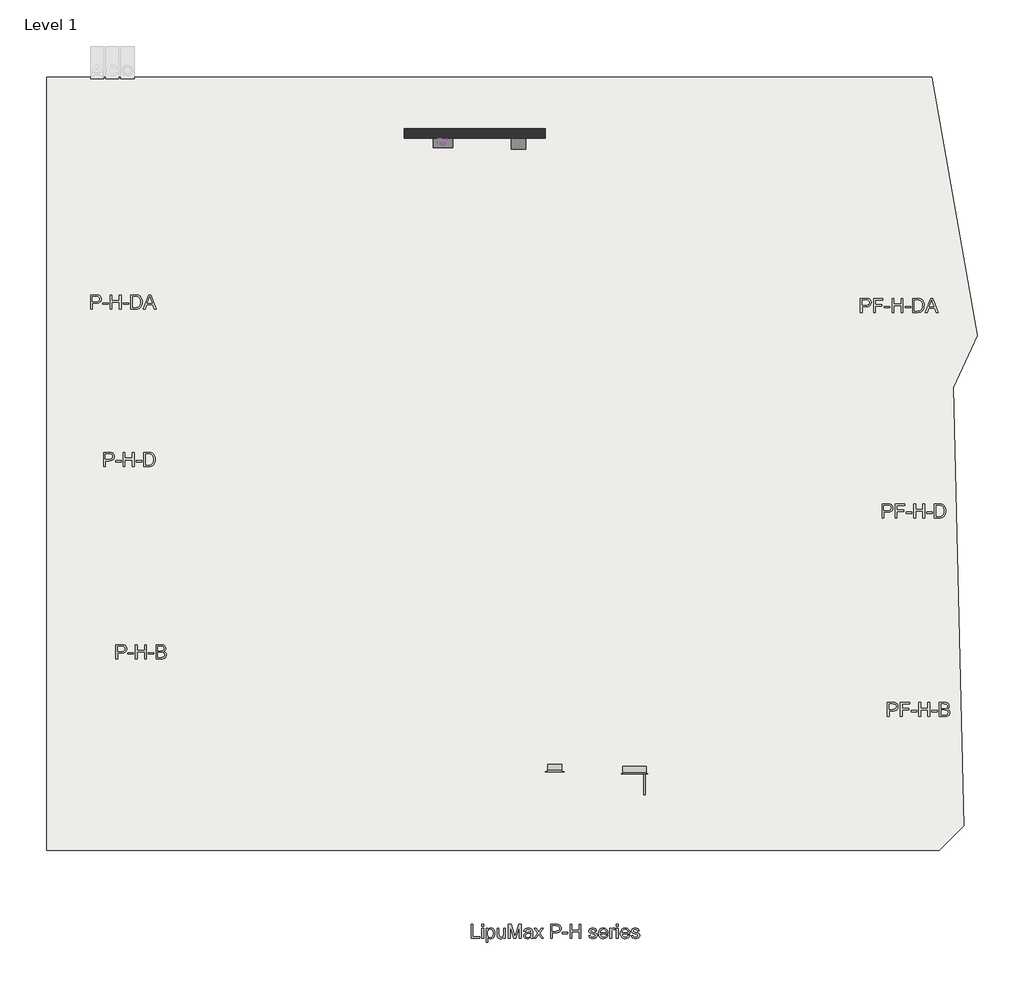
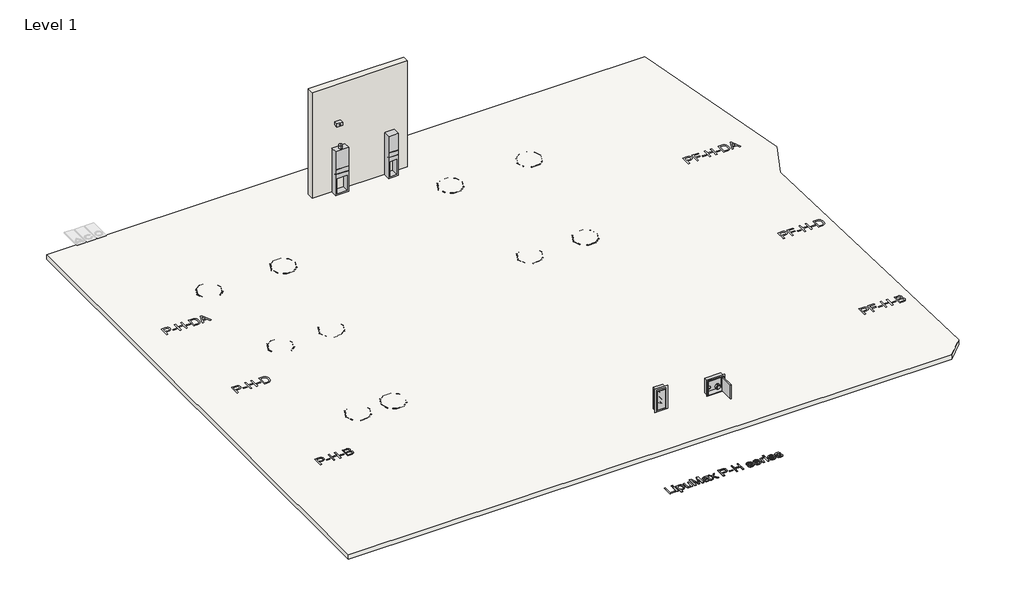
# One storey, part 1 of 2: 23 unitary equipment elements, 4 furniture elements, 4 proxies, 1 alarm, 1 slab, 1 wall.
"""IFC4 building model written with IfcOpenShell, lengths in millimetres."""

from ifc_helpers import new_model, si_unit, frame, origin, origin_with_axes, place, context, project, spatial, polyline, outline, extrude, transform, mapped, element, save
from components import std_nested_414b5e36, message_system_with_gsm_module_9e46706c, std_nested_7b1f1c58, furniture_300_x_725_x_160_cc6d1901, furniture_500x500x160_e2bdd59b, cabinet_for_multi_control_duo_19fc9964, open_air_cabinet_heating_thermostat_9f62fe86, ns_20_1f6e9076, std_nested_3f0f99d6, std_nested_1232a2d1, std_nested_ab5ed908, std_nested_dfdc8ccc, std_nested_f2bb9ae7, std_nested_6977cd49, std_nested_bba80288, std_nested_8366b505

model = new_model("IFC4")

# Units and contexts
model_context = context("Model", 3, world=origin())
ifc_project = project(units=[si_unit("LENGTHUNIT", "METRE", prefix="MILLI")], contexts=[model_context])

# Site, building, storey
site = spatial("IfcSite", under=ifc_project)
building = spatial("IfcBuilding", under=site)
storey = spatial("IfcBuildingStorey", under=building, Name="Level 1", Elevation=0.0)

# Alarm
placement = place(None, origin())
std_nested_shape = std_nested_414b5e36(model_context)
element("IfcAlarm", 1, ObjectType="ZZZ_do not use_CD_WPB_flashing light_ACO : std(nested)", at=placement, inside=storey, context=model_context, shape_type="MappedRepresentation", body=[
    mapped(std_nested_shape, transform((5030.9983347, 8722.4409453, 1415.0), x_axis=(1.0, 0.0, 0.0), y_axis=(0.0, 1.0, 0.0), z_axis=(0.0, 0.0, 1.0))),
])

# Proxies
element("IfcBuildingElementProxy", 2, Name="100mm ACO", ObjectType="100mm ACO", at=placement, inside=storey, context=model_context, shape_type="SweptSolid", body=[
    extrude(outline(polyline([(-1925.2265985, -1934.5372558), (-1812.8422957, -1934.5372558), (-1767.0400645, -1937.1780271), (-1748.5113736, -1941.929251), (-1731.3680054, -1950.90138), (-1716.9195227, -1963.96454), (-1706.4754884, -1980.988857), (-1700.1441308, -2000.4374888), (-1698.0336783, -2020.7735929), (-1699.6976889, -2040.3980956), (-1704.6897209, -2057.9716715), (-1713.0097741, -2073.4943204), (-1724.6578486, -2086.9660424), (-1739.9748637, -2097.8565185), (-1759.3017385, -2105.6354301), (-1782.6384732, -2110.302777), (-1809.9850677, -2111.8585593), (-1886.4375633, -2111.8585593), (-1886.4375633, -2233.7669555), (-1925.2265985, -2233.7669555), (-1925.2265985, -1934.5372558)]), holes=[polyline([(-1886.4375633, -2078.6108149), (-1808.4265797, -2078.6108149), (-1777.0998882, -2075.066337), (-1754.72368, -2064.4329031), (-1741.2979551, -2046.7105133), (-1736.8227134, -2021.8991675), (-1739.1496226, -2004.3770002), (-1746.1303502, -1989.0410451), (-1756.4986247, -1977.482259), (-1768.9881745, -1971.2915982), (-1809.2924063, -1967.7850002), (-1886.4375633, -1967.7850002), (-1886.4375633, -2078.6108149)])]), origin_with_axes(), (0.0, 0.0, 1.0), 10.0),
    extrude(outline(polyline([(-1553.9601191, -2134.0237223), (-1670.3272246, -2134.0237223), (-1670.3272246, -2106.3172686), (-1553.9601191, -2106.3172686), (-1553.9601191, -2134.0237223)])), origin_with_axes(), (0.0, 0.0, 1.0), 10.0),
    extrude(outline(polyline([(-1276.8955823, -2233.7669555), (-1315.6846174, -2233.7669555), (-1315.6846174, -2089.6933964), (-1470.8407581, -2089.6933964), (-1470.8407581, -2233.7669555), (-1509.6297932, -2233.7669555), (-1509.6297932, -1934.5372558), (-1470.8407581, -1934.5372558), (-1470.8407581, -2056.445652), (-1315.6846174, -2056.445652), (-1315.6846174, -1934.5372558), (-1276.8955823, -1934.5372558), (-1276.8955823, -2233.7669555)])), origin_with_axes(), (0.0, 0.0, 1.0), 10.0),
    extrude(outline(polyline([(-1116.1981509, -2134.0237223), (-1232.5652564, -2134.0237223), (-1232.5652564, -2106.3172686), (-1116.1981509, -2106.3172686), (-1116.1981509, -2134.0237223)])), origin_with_axes(), (0.0, 0.0, 1.0), 10.0),
    extrude(outline(polyline([(-907.966835, -2075.7535869), (-882.619759, -2086.9011054), (-864.5889184, -2103.3734579), (-853.8093763, -2123.9584872), (-850.2161956, -2147.4440358), (-853.3115259, -2171.3624978), (-862.597517, -2193.246267), (-877.5871414, -2211.3528674), (-897.7933715, -2223.9398228), (-924.666467, -2231.3101724), (-959.6566876, -2233.7669555), (-1071.867825, -2233.7669555), (-1071.867825, -1934.5372558), (-963.0334116, -1934.5372558), (-938.5711023, -1936.0308068), (-917.9996016, -1940.5114598), (-901.3189095, -1947.9792149), (-888.529026, -1958.4340721), (-872.2623073, -1983.6512741), (-866.8400678, -2011.5092474), (-869.3942565, -2030.514143), (-877.0568226, -2048.0471332), (-889.8927031, -2063.3722654), (-907.966835, -2075.7535869)]), holes=[polyline([(-1033.0787899, -2200.5192111), (-959.3103569, -2200.5192111), (-925.7920417, -2197.0234359), (-904.3736542, -2186.5361103), (-892.8473366, -2169.8797696), (-889.0052307, -2147.8769491), (-893.0962618, -2125.7659004), (-905.3693549, -2109.1312053), (-928.3137619, -2098.7088167), (-964.4187343, -2095.2346871), (-1033.0787899, -2095.2346871), (-1033.0787899, -2200.5192111)]), polyline([(-1033.0787899, -2061.9869427), (-970.8258517, -2061.9869427), (-938.6170993, -2059.6492107), (-926.3764747, -2055.3741915), (-915.629401, -2047.2245979), (-908.1291775, -2034.3562489), (-905.6291029, -2015.9249635), (-908.1508231, -1996.5845601), (-915.7159837, -1983.066841), (-926.7769195, -1974.5276254), (-939.7859654, -1970.1227322), (-975.6744811, -1967.7850002), (-1033.0787899, -1967.7850002), (-1033.0787899, -2061.9869427)])]), origin_with_axes(), (0.0, 0.0, 1.0), 10.0),
])
element("IfcBuildingElementProxy", 3, Name="100mm ACO", ObjectType="100mm ACO", at=placement, inside=storey, context=model_context, shape_type="SweptSolid", body=[
    extrude(outline(polyline([(5812.0372031, -8180.9782703), (5623.6333181, -8180.9782703), (5623.6333181, -7881.7485706), (5662.4223532, -7881.7485706), (5662.4223532, -8147.7305259), (5812.0372031, -8147.7305259), (5812.0372031, -8180.9782703)])), origin_with_axes(), (0.0, 0.0, 1.0), 10.0),
    extrude(outline(polyline([(5889.6152734, -7920.5376057), (5850.8262383, -7920.5376057), (5850.8262383, -7881.7485706), (5889.6152734, -7881.7485706), (5889.6152734, -7920.5376057)])), origin_with_axes(), (0.0, 0.0, 1.0), 10.0),
    extrude(outline(polyline([(5889.6152734, -8180.9782703), (5850.8262383, -8180.9782703), (5850.8262383, -7964.8679316), (5889.6152734, -7964.8679316), (5889.6152734, -8180.9782703)])), origin_with_axes(), (0.0, 0.0, 1.0), 10.0),
    extrude(outline(polyline([(5984.206838, -7990.9293146), (5995.803504, -7977.1031448), (6009.5106226, -7967.2273093), (6025.7178157, -7961.301808), (6044.4250834, -7959.3266409), (6063.949475, -7961.2639281), (6081.3092999, -7967.0757896), (6096.5045581, -7976.7622256), (6109.5352496, -7990.3232359), (6119.9901067, -8006.9958109), (6127.4578618, -8026.0169407), (6131.9385148, -8047.3866254), (6133.4320659, -8071.1048649), (6131.7437038, -8096.23819), (6126.6786178, -8118.6495724), (6118.2368077, -8138.3390122), (6106.4182735, -8155.3065093), (6092.1429562, -8168.9622195), (6076.3307965, -8178.7162981), (6058.9817944, -8184.5687453), (6040.09595, -8186.5195611), (6023.721003, -8184.9286046), (6009.0560636, -8180.155735), (5996.101132, -8172.2009524), (5984.856208, -8161.0642568), (5983.817216, -8264.0976314), (5945.0281808, -8264.0976314), (5945.0281808, -7964.8679316), (5983.817216, -7964.8679316), (5984.206838, -7990.9293146)]), holes=[polyline([(6035.8533993, -8158.8131074), (6059.1116684, -8153.3475765), (6077.9758672, -8136.9509838), (6090.4762398, -8109.7315576), (6094.6430307, -8071.7975263), (6090.6277595, -8035.6600853), (6078.5819458, -8008.9818008), (6060.2805344, -7992.5202711), (6037.49847, -7987.0330946), (6025.130677, -7988.5618198), (6013.9155159, -7993.1479955), (5994.9430888, -8011.4926982), (5982.4427161, -8039.577951), (5978.2759252, -8074.9145023), (5982.2695508, -8111.1601716), (5994.2504274, -8137.4704798), (6012.6384215, -8153.4774505), (6035.8533993, -8158.8131074)])]), origin_with_axes(), (0.0, 0.0, 1.0), 10.0),
    extrude(outline(polyline([(6355.0836953, -8180.9782703), (6321.8359509, -8180.9782703), (6321.8359509, -8149.5487619), (6307.1385431, -8165.7234866), (6291.1856865, -8177.2768613), (6272.9383893, -8184.2088861), (6252.3966514, -8186.5195611), (6230.4046538, -8183.8896125), (6210.1443095, -8175.9997669), (6193.9749963, -8163.4993943), (6184.2560918, -8147.0378646), (6179.3858168, -8125.8467566), (6177.7623918, -8099.1576493), (6177.7623918, -7964.8679316), (6216.5514269, -7964.8679316), (6216.5514269, -8087.4689892), (6219.2354896, -8129.6347484), (6224.084119, -8141.2368258), (6233.2618818, -8150.587754), (6245.6864946, -8156.756769), (6260.2756741, -8158.8131074), (6279.9407625, -8155.133344), (6298.4153393, -8144.0940539), (6306.2375422, -8134.7647714), (6311.8248299, -8121.4959776), (6316.2946602, -8083.1398558), (6316.2946602, -7964.8679316), (6355.0836953, -7964.8679316), (6355.0836953, -8180.9782703)])), origin_with_axes(), (0.0, 0.0, 1.0), 10.0),
    extrude(outline(polyline([(6693.1024303, -8180.9782703), (6654.3133951, -8180.9782703), (6654.3133951, -7930.2348645), (6577.9474821, -8180.9782703), (6536.7341323, -8180.9782703), (6455.9525033, -7926.1654791), (6454.8269286, -8180.9782703), (6416.0378934, -8180.9782703), (6416.0378934, -7881.7485706), (6475.0006902, -7881.7485706), (6543.314415, -8093.7895239), (6556.5615632, -8138.1198498), (6571.5403647, -8090.1530519), (6635.4383735, -7881.7485706), (6693.1024303, -7881.7485706), (6693.1024303, -8180.9782703)])), origin_with_axes(), (0.0, 0.0, 1.0), 10.0),
    extrude(outline(polyline([(6942.4605134, -8180.9782703), (6903.6714783, -8180.9782703), (6897.0046128, -8169.4627755), (6892.5888968, -8154.8303047), (6874.2604283, -8168.6943543), (6855.20683, -8178.597247), (6835.4281018, -8184.5389825), (6814.9242438, -8186.5195611), (6785.0424006, -8182.1904277), (6762.2386905, -8169.2030275), (6747.7902078, -8149.1158486), (6742.9740469, -8123.4873789), (6747.6928023, -8098.6273305), (6761.8490685, -8078.5942657), (6787.6723491, -8063.950972), (6827.392148, -8055.2602367), (6861.3325537, -8050.0652767), (6892.5888968, -8042.4460019), (6891.5931961, -8018.4193116), (6885.7921574, -8003.8301321), (6870.3371512, -7991.6652673), (6841.6782881, -7987.0330946), (6821.2123101, -7989.3816494), (6805.5300244, -7996.427314), (6794.3283917, -8009.8584503), (6787.3043728, -8031.3634204), (6748.5153376, -8026.6013737), (6759.1541829, -7997.2498493), (6779.1223107, -7976.2102611), (6808.3980752, -7963.5475459), (6846.9598309, -7959.3266409), (6880.9759965, -7962.2163374), (6904.5805963, -7970.885427), (6919.4295238, -7983.6347248), (6927.1786726, -7998.765046), (6931.3779319, -8040.8009312), (6931.3779319, -8090.2396345), (6933.0230026, -8150.847502), (6942.4605134, -8180.9782703)]), holes=[polyline([(6892.5888968, -8084.0056824), (6892.5888968, -8070.1524556), (6860.9321089, -8079.157053), (6822.9331406, -8086.0836665), (6804.92124, -8090.5913766), (6792.0555967, -8098.2268856), (6784.3362107, -8108.9901935), (6781.7630821, -8122.8813003), (6784.5337274, -8137.1674404), (6792.8456635, -8148.6829353), (6806.3742054, -8156.2805644), (6824.7946679, -8158.8131074), (6850.0443384, -8154.5705567), (6872.1120959, -8141.8429045), (6881.0706963, -8131.864252), (6887.4696966, -8118.8984976), (6892.5888968, -8084.0056824)])]), origin_with_axes(), (0.0, 0.0, 1.0), 10.0),
    extrude(outline(polyline([(7164.1121429, -8180.9782703), (7125.0633597, -8180.9782703), (7064.4554923, -8096.3004213), (7003.8476249, -8180.9782703), (6964.6256764, -8180.9782703), (7044.714644, -8069.0268809), (6970.1669671, -7964.8679316), (7009.2157503, -7964.8679316), (7064.282327, -8041.6667579), (7119.262321, -7964.8679316), (7158.5708521, -7964.8679316), (7083.9365925, -8069.1134636), (7164.1121429, -8180.9782703)])), origin_with_axes(), (0.0, 0.0, 1.0), 10.0),
    extrude(outline(polyline([(7313.7269928, -7881.7485706), (7426.1112955, -7881.7485706), (7471.9135268, -7884.3893419), (7490.4422177, -7889.1405658), (7507.5855859, -7898.1126948), (7522.0340686, -7911.1758548), (7532.4781029, -7928.2001718), (7538.8094605, -7947.6488036), (7540.919913, -7967.9849076), (7539.2559023, -7987.6094104), (7534.2638704, -8005.1829863), (7525.9438172, -8020.7056352), (7514.2957426, -8034.1773571), (7498.9787276, -8045.0678333), (7479.6518527, -8052.8467449), (7456.315118, -8057.5140918), (7428.9685236, -8059.0698741), (7352.5160279, -8059.0698741), (7352.5160279, -8180.9782703), (7313.7269928, -8180.9782703), (7313.7269928, -7881.7485706)]), holes=[polyline([(7352.5160279, -8025.8221297), (7430.5270116, -8025.8221297), (7461.8537031, -8022.2776517), (7484.2299113, -8011.6442179), (7497.6556362, -7993.9218281), (7502.1308778, -7969.1104823), (7499.8039686, -7951.5883149), (7492.823241, -7936.2523599), (7482.4549666, -7924.6935738), (7469.9654167, -7918.502913), (7429.6611849, -7914.996315), (7352.5160279, -7914.996315), (7352.5160279, -8025.8221297)])]), origin_with_axes(), (0.0, 0.0, 1.0), 10.0),
    extrude(outline(polyline([(7684.9934721, -8081.2350371), (7568.6263667, -8081.2350371), (7568.6263667, -8053.5285834), (7684.9934721, -8053.5285834), (7684.9934721, -8081.2350371)])), origin_with_axes(), (0.0, 0.0, 1.0), 10.0),
    extrude(outline(polyline([(7962.058009, -8180.9782703), (7923.2689738, -8180.9782703), (7923.2689738, -8036.9047112), (7768.1128332, -8036.9047112), (7768.1128332, -8180.9782703), (7729.323798, -8180.9782703), (7729.323798, -7881.7485706), (7768.1128332, -7881.7485706), (7768.1128332, -8003.6569668), (7923.2689738, -8003.6569668), (7923.2689738, -7881.7485706), (7962.058009, -7881.7485706), (7962.058009, -8180.9782703)])), origin_with_axes(), (0.0, 0.0, 1.0), 10.0),
    extrude(outline(polyline([(8261.2877087, -8025.8221297), (8256.4931935, -8008.8519268), (8246.9582772, -7996.7303533), (8232.7262512, -7989.4574092), (8213.8404068, -7987.0330946), (8194.9004482, -7989.1110786), (8179.9865837, -7995.3450307), (8170.3109706, -8005.5401398), (8167.0857662, -8019.501595), (8169.2178644, -8032.3374755), (8175.614159, -8040.8875139), (8189.9327677, -8046.991592), (8215.8318082, -8052.4895914), (8268.8636922, -8064.9574955), (8284.3078755, -8073.0637978), (8295.9207759, -8083.8758084), (8303.1937199, -8098.4325195), (8305.6180346, -8117.7729229), (8304.1136608, -8131.7046153), (8299.6005392, -8144.4944987), (8281.548053, -8166.6488388), (8253.4303316, -8181.5518805), (8217.2171309, -8186.5195611), (8179.8891782, -8182.3419474), (8151.7173427, -8169.8091062), (8132.6799786, -8148.9426833), (8122.7554403, -8119.7643242), (8161.5444755, -8114.4827815), (8167.1615261, -8133.9314132), (8178.2982217, -8147.7738172), (8194.9762081, -8156.0532849), (8217.2171309, -8158.8131074), (8238.4082388, -8155.9450565), (8254.0147647, -8147.3409039), (8263.6254408, -8134.6240746), (8266.8289995, -8119.4179936), (8265.3895626, -8109.3635813), (8261.0712521, -8101.5386727), (8246.6985292, -8091.4517919), (8206.0479667, -8082.7935251), (8166.6203844, -8073.1395576), (8143.4054066, -8059.4162048), (8132.0738999, -8042.1213169), (8128.2967311, -8021.7527443), (8133.892136, -7996.9576328), (8150.6783507, -7976.9462138), (8176.9237218, -7963.7315341), (8210.8965961, -7959.3266409), (8246.6011237, -7963.1795696), (8273.3659909, -7974.7383557), (8291.1911976, -7993.9813536), (8300.0767439, -8020.8869176), (8261.2877087, -8025.8221297)])), origin_with_axes(), (0.0, 0.0, 1.0), 10.0),
    extrude(outline(polyline([(8532.8109548, -8081.2350371), (8372.1135235, -8081.2350371), (8378.3150071, -8114.5260728), (8392.4171591, -8138.8990938), (8412.7099718, -8153.834604), (8437.4834376, -8158.8131074), (8456.6073844, -8156.0532849), (8472.4195441, -8147.7738172), (8484.8982711, -8133.9314132), (8494.0219197, -8114.4827815), (8532.8109548, -8118.9850802), (8519.7153263, -8147.7738172), (8498.9571317, -8169.0298622), (8471.2939694, -8182.1471364), (8437.4834376, -8186.5195611), (8414.3198683, -8184.6445052), (8393.8349503, -8179.0193375), (8376.0286835, -8169.644058), (8360.901068, -8156.5186667), (8348.8363144, -8140.1464254), (8340.2186332, -8121.0305957), (8335.0480246, -8099.1711778), (8333.3244883, -8074.5681717), (8334.9857933, -8050.108568), (8339.9697081, -8028.0732791), (8348.2762328, -8008.4623048), (8359.9053673, -7991.2756453), (8374.5540724, -7977.2979558), (8391.9193087, -7967.313892), (8412.0010762, -7961.3234536), (8434.7993749, -7959.3266409), (8458.0035299, -7961.9132981), (8480.3418582, -7969.6732697), (8500.5913796, -7983.6563705), (8517.529114, -8004.9124154), (8528.9904946, -8036.4393293), (8532.8109548, -8081.2350371)]), holes=[polyline([(8494.0219197, -8053.5285834), (8487.7879676, -8023.138067), (8473.5884101, -8002.6179747), (8454.5618689, -7990.9293146), (8433.8469656, -7987.0330946), (8410.3397713, -7991.6652673), (8391.4214584, -8005.5617855), (8378.2825386, -8026.8178304), (8372.1135235, -8053.5285834), (8494.0219197, -8053.5285834)])]), origin_with_axes(), (0.0, 0.0, 1.0), 10.0),
    extrude(outline(polyline([(8693.5083862, -7967.8117423), (8681.3868127, -7992.5743853), (8655.9315084, -7987.0330946), (8638.5933292, -7991.9033696), (8626.060488, -8006.5141948), (8618.4628589, -8029.8915151), (8615.9303159, -8061.0612755), (8615.9303159, -8180.9782703), (8577.1412807, -8180.9782703), (8577.1412807, -7964.8679316), (8610.3890252, -7964.8679316), (8610.3890252, -7996.9035187), (8620.4867288, -7980.4636346), (8631.1255741, -7968.7208603), (8643.0848051, -7961.6751957), (8656.3644217, -7959.3266409), (8674.871467, -7961.4479162), (8693.5083862, -7967.8117423)])), origin_with_axes(), (0.0, 0.0, 1.0), 10.0),
    extrude(outline(polyline([(8754.4625843, -7920.5376057), (8715.6735492, -7920.5376057), (8715.6735492, -7881.7485706), (8754.4625843, -7881.7485706), (8754.4625843, -7920.5376057)])), origin_with_axes(), (0.0, 0.0, 1.0), 10.0),
    extrude(outline(polyline([(8754.4625843, -8180.9782703), (8715.6735492, -8180.9782703), (8715.6735492, -7964.8679316), (8754.4625843, -7964.8679316), (8754.4625843, -8180.9782703)])), origin_with_axes(), (0.0, 0.0, 1.0), 10.0),
    extrude(outline(polyline([(8998.2793767, -8081.2350371), (8837.5819454, -8081.2350371), (8843.7834289, -8114.5260728), (8857.885581, -8138.8990938), (8878.1783937, -8153.834604), (8902.9518595, -8158.8131074), (8922.0758063, -8156.0532849), (8937.887966, -8147.7738172), (8950.366693, -8133.9314132), (8959.4903416, -8114.4827815), (8998.2793767, -8118.9850802), (8985.1837482, -8147.7738172), (8964.4255536, -8169.0298622), (8936.7623913, -8182.1471364), (8902.9518595, -8186.5195611), (8879.7882902, -8184.6445052), (8859.3033721, -8179.0193375), (8841.4971054, -8169.644058), (8826.3694899, -8156.5186667), (8814.3047363, -8140.1464254), (8805.6870551, -8121.0305957), (8800.5164464, -8099.1711778), (8798.7929102, -8074.5681717), (8800.4542151, -8050.108568), (8805.43813, -8028.0732791), (8813.7446546, -8008.4623048), (8825.3737892, -7991.2756453), (8840.0224943, -7977.2979558), (8857.3877306, -7967.313892), (8877.4694981, -7961.3234536), (8900.2677968, -7959.3266409), (8923.4719518, -7961.9132981), (8945.8102801, -7969.6732697), (8966.0598015, -7983.6563705), (8982.9975359, -8004.9124154), (8994.4589165, -8036.4393293), (8998.2793767, -8081.2350371)]), holes=[polyline([(8959.4903416, -8053.5285834), (8953.2563895, -8023.138067), (8939.056832, -8002.6179747), (8920.0302907, -7990.9293146), (8899.3153875, -7987.0330946), (8875.8081932, -7991.6652673), (8856.8898803, -8005.5617855), (8843.7509604, -8026.8178304), (8837.5819454, -8053.5285834), (8959.4903416, -8053.5285834)])]), origin_with_axes(), (0.0, 0.0, 1.0), 10.0),
    extrude(outline(polyline([(9164.5180988, -8025.8221297), (9159.7235836, -8008.8519268), (9150.1886673, -7996.7303533), (9135.9566413, -7989.4574092), (9117.0707969, -7987.0330946), (9098.1308383, -7989.1110786), (9083.2169738, -7995.3450307), (9073.5413607, -8005.5401398), (9070.3161563, -8019.501595), (9072.4482545, -8032.3374755), (9078.8445491, -8040.8875139), (9093.1631578, -8046.991592), (9119.0621983, -8052.4895914), (9172.0940823, -8064.9574955), (9187.5382656, -8073.0637978), (9199.1511659, -8083.8758084), (9206.42411, -8098.4325195), (9208.8484247, -8117.7729229), (9207.3440509, -8131.7046153), (9202.8309293, -8144.4944987), (9184.7784431, -8166.6488388), (9156.6607217, -8181.5518805), (9120.4475209, -8186.5195611), (9083.1195683, -8182.3419474), (9054.9477328, -8169.8091062), (9035.9103687, -8148.9426833), (9025.9858304, -8119.7643242), (9064.7748656, -8114.4827815), (9070.3919161, -8133.9314132), (9081.5286118, -8147.7738172), (9098.2065982, -8156.0532849), (9120.4475209, -8158.8131074), (9141.6386289, -8155.9450565), (9157.2451547, -8147.3409039), (9166.8558309, -8134.6240746), (9170.0593896, -8119.4179936), (9168.6199527, -8109.3635813), (9164.3016422, -8101.5386727), (9149.9289193, -8091.4517919), (9109.2783568, -8082.7935251), (9069.8507745, -8073.1395576), (9046.6357967, -8059.4162048), (9035.30429, -8042.1213169), (9031.5271211, -8021.7527443), (9037.122526, -7996.9576328), (9053.9087408, -7976.9462138), (9080.1541119, -7963.7315341), (9114.1269862, -7959.3266409), (9149.8315138, -7963.1795696), (9176.596381, -7974.7383557), (9194.4215877, -7993.9813536), (9203.307134, -8020.8869176), (9164.5180988, -8025.8221297)])), origin_with_axes(), (0.0, 0.0, 1.0), 10.0),
])
message_system_with_gsm_module_shape = message_system_with_gsm_module_9e46706c(model_context)
element("IfcBuildingElementProxy", 4, Name="CD_WPB_signalling device_ACO : message system with GSM module", ObjectType="CD_WPB_signalling device_ACO : message system with GSM module", at=placement, inside=storey, context=model_context, shape_type="MappedRepresentation", body=[
    mapped(message_system_with_gsm_module_shape, transform((5005.9983347, 8780.4176338, 2200.0), x_axis=(1.0, 0.0, 0.0), y_axis=(0.0, 1.0, 0.0), z_axis=(0.0, 0.0, 1.0))),
])
std_nested_2_shape = std_nested_7b1f1c58(model_context)
element("IfcBuildingElementProxy", 5, Name="ZZZ_do not use_CD_WPB_remote control_ACO : std(nested)", ObjectType="ZZZ_do not use_CD_WPB_remote control_ACO : std(nested)", at=placement, inside=storey, context=model_context, shape_type="MappedRepresentation", body=[
    mapped(std_nested_2_shape, transform((7400.0, -4481.5823662, 560.0), x_axis=(1.0, 0.0, 0.0), y_axis=(0.0, 0.0, 1.0), z_axis=(0.0, -1.0, 0.0))),
])

# Furniture
furniture_300_x_725_x_160_shape = furniture_300_x_725_x_160_cc6d1901(model_context)
element("IfcFurniture", 6, ObjectType="ME_UN_connection box double connection_ACO : 300 x 725 x 160", at=placement, inside=storey, context=model_context, shape_type="MappedRepresentation", body=[
    mapped(furniture_300_x_725_x_160_shape, transform((7400.0, -4639.5823662, 0.0), x_axis=(1.0, 0.0, 0.0), y_axis=(0.0, 1.0, 0.0), z_axis=(0.0, 0.0, 1.0))),
])
furniture_500x500x160_shape = furniture_500x500x160_e2bdd59b(model_context)
element("IfcFurniture", 7, ObjectType="ME_UN_connection box single connection_ACO : 500x500x160", at=placement, inside=storey, context=model_context, shape_type="MappedRepresentation", body=[
    mapped(furniture_500x500x160_shape, transform((9100.0, -4679.5823662, 0.0), x_axis=(1.0, 0.0, 0.0), y_axis=(0.0, 1.0, 0.0), z_axis=(0.0, 0.0, 1.0))),
])
cabinet_for_multi_control_duo_shape = cabinet_for_multi_control_duo_19fc9964(model_context)
element("IfcFurniture", 8, ObjectType="ME_UN_outdoor cabinet_ACO : cabinet for multi control duo", at=placement, inside=storey, context=model_context, shape_type="MappedRepresentation", body=[
    mapped(cabinet_for_multi_control_duo_shape, transform((5030.9983347, 8633.4176338, 600.0), x_axis=(1.0, 0.0, 0.0), y_axis=(0.0, 1.0, 0.0), z_axis=(0.0, 0.0, 1.0))),
])
open_air_cabinet_heating_thermostat_shape = open_air_cabinet_heating_thermostat_9f62fe86(model_context)
element("IfcFurniture", 9, ObjectType="ME_UN_outdoor cabinet_ACO : open air cabinet heating+thermostat", at=placement, inside=storey, context=model_context, shape_type="MappedRepresentation", body=[
    mapped(open_air_cabinet_heating_thermostat_shape, transform((6630.9983347, 8610.4176338, 600.0), x_axis=(1.0, 0.0, 0.0), y_axis=(0.0, 1.0, 0.0), z_axis=(0.0, 0.0, 1.0))),
])

# Slab
element("IfcSlab", 10, ObjectType="Floor 1", at=placement, inside=storey, context=model_context, shape_type="SweptSolid", body=[
    extrude(outline(polyline([(15421.8519897, 10135.8030269), (16390.4536383, 4642.5901069), (15874.6849204, 3536.5205219), (16100.2555399, -5782.2158296), (15577.261983, -6305.2093865), (-3400.0, -6305.2093865), (-3400.0, 10135.8030269), (15421.8519897, 10135.8030269)])), frame((0.0, 0.0, -150.0), z_axis=(0.0, 0.0, 1.0), x_axis=(1.0, 0.0, 0.0)), (0.0, 0.0, 1.0), 150.0),
])

# Unitary equipment
ns_20_shape = ns_20_1f6e9076(model_context)
element("IfcUnitaryEquipment", 11, ObjectType="ME_UN_lipumax-PF-H-DA_ACO : NS-20", at=placement, inside=storey, context=model_context, shape_type="MappedRepresentation", body=[
    mapped(ns_20_shape, transform((9019.1871609, 7490.9414056, 0.0), x_axis=(1.0, 0.0, 0.0), y_axis=(0.0, 1.0, 0.0), z_axis=(0.0, 0.0, 1.0))),
])
std_nested_3_shape = std_nested_3f0f99d6(model_context)
element("IfcUnitaryEquipment", 12, ObjectType="ZZZ_do not use_ME_UN_concrete_bearing ring_ACO : std(nested)", at=placement, inside=storey, context=model_context, shape_type="MappedRepresentation", body=[
    mapped(std_nested_3_shape, transform((199.0702336, -600.0108111, -90.0), x_axis=(1.0, 0.0, 0.0), y_axis=(0.0, 1.0, 0.0), z_axis=(0.0, 0.0, 1.0))),
])
element("IfcUnitaryEquipment", 13, ObjectType="ZZZ_do not use_ME_UN_concrete_bearing ring_ACO : std(nested)", at=placement, inside=storey, context=model_context, shape_type="MappedRepresentation", body=[
    mapped(std_nested_3_shape, transform((1314.0702336, -596.2608111, -90.0), x_axis=(1.0, 0.0, 0.0), y_axis=(0.0, 1.0, 0.0), z_axis=(0.0, 0.0, 1.0))),
])
std_nested_4_shape = std_nested_1232a2d1(model_context)
element("IfcUnitaryEquipment", 14, ObjectType="ZZZ_do not use_ME_WPB_top sections_plastic_ACO : std(nested)", at=placement, inside=storey, context=model_context, shape_type="MappedRepresentation", body=[
    mapped(std_nested_4_shape, transform((9851.4424315, -686.5410478, -57.7350269), x_axis=(1.0, 0.0, 0.0), y_axis=(0.0, 1.0, 0.0), z_axis=(0.0, 0.0, 1.0))),
])
std_nested_5_shape = std_nested_ab5ed908(model_context)
element("IfcUnitaryEquipment", 15, ObjectType="ZZZ_do not use_ME_WPB_top sections_plastic_ACO : std(nested)", at=placement, inside=storey, context=model_context, shape_type="MappedRepresentation", body=[
    mapped(std_nested_5_shape, transform((8596.4424315, -686.5410478, -57.7350269), x_axis=(1.0, 0.0, 0.0), y_axis=(0.0, 1.0, 0.0), z_axis=(0.0, 0.0, 1.0))),
])
std_nested_6_shape = std_nested_dfdc8ccc(model_context)
element("IfcUnitaryEquipment", 16, ObjectType="ZZZ_do not use_ME_WPB_top sections_plastic_ACO : std(nested)", at=placement, inside=storey, context=model_context, shape_type="MappedRepresentation", body=[
    mapped(std_nested_6_shape, transform((7779.1871609, 7490.9414056, 0.0), x_axis=(1.0, 0.0, 0.0), y_axis=(0.0, 1.0, 0.0), z_axis=(0.0, 0.0, 1.0))),
])
element("IfcUnitaryEquipment", 17, ObjectType="ZZZ_do not use_ME_WPB_top sections_plastic_ACO : std(nested)", at=placement, inside=storey, context=model_context, shape_type="MappedRepresentation", body=[
    mapped(std_nested_6_shape, transform((10259.1871609, 7490.9414056, 0.0), x_axis=(1.0, 0.0, 0.0), y_axis=(0.0, 1.0, 0.0), z_axis=(0.0, 0.0, 1.0))),
])
std_nested_7_shape = std_nested_f2bb9ae7(model_context)
element("IfcUnitaryEquipment", 18, ObjectType="ZZZ_do not use_ME_WPB_top sections_plastic_ACO : std(nested)", at=placement, inside=storey, context=model_context, shape_type="MappedRepresentation", body=[
    mapped(std_nested_7_shape, transform((7986.6871609, 3515.9310141, 0.0), x_axis=(1.0, 0.0, 0.0), y_axis=(0.0, 1.0, 0.0), z_axis=(0.0, 0.0, 1.0))),
])
element("IfcUnitaryEquipment", 19, ObjectType="ZZZ_do not use_ME_WPB_top sections_plastic_ACO : std(nested)", at=placement, inside=storey, context=model_context, shape_type="MappedRepresentation", body=[
    mapped(std_nested_7_shape, transform((9731.6871609, 3515.9310141, 0.0), x_axis=(1.0, 0.0, 0.0), y_axis=(0.0, 1.0, 0.0), z_axis=(0.0, 0.0, 1.0))),
])
std_nested_8_shape = std_nested_6977cd49(model_context)
element("IfcUnitaryEquipment", 20, ObjectType="ZZZ_do not use_ME_WPB_manhole covers_ACO : std(nested)", at=placement, inside=storey, context=model_context, shape_type="MappedRepresentation", body=[
    mapped(std_nested_8_shape, transform((199.0702336, -600.0108111, 0.0), x_axis=(1.0, 0.0, 0.0), y_axis=(0.0, 1.0, 0.0), z_axis=(0.0, 0.0, 1.0))),
])
element("IfcUnitaryEquipment", 21, ObjectType="ZZZ_do not use_ME_WPB_manhole covers_ACO : std(nested)", at=placement, inside=storey, context=model_context, shape_type="MappedRepresentation", body=[
    mapped(std_nested_8_shape, transform((1314.0702336, -596.2608111, 0.0), x_axis=(1.0, 0.0, 0.0), y_axis=(0.0, 1.0, 0.0), z_axis=(0.0, 0.0, 1.0))),
])
std_nested_9_shape = std_nested_bba80288(model_context)
element("IfcUnitaryEquipment", 22, ObjectType="ZZZ_do not use_ME_UN_concrete_bearing ring_ACO : std(nested)", at=placement, inside=storey, context=model_context, shape_type="MappedRepresentation", body=[
    mapped(std_nested_9_shape, transform((199.0702336, -600.0108111, -270.0), x_axis=(1.0, 0.0, 0.0), y_axis=(0.0, 1.0, 0.0), z_axis=(0.0, 0.0, 1.0))),
])
element("IfcUnitaryEquipment", 23, ObjectType="ZZZ_do not use_ME_UN_concrete_bearing ring_ACO : std(nested)", at=placement, inside=storey, context=model_context, shape_type="MappedRepresentation", body=[
    mapped(std_nested_9_shape, transform((1314.0702336, -596.2608111, -270.0), x_axis=(1.0, 0.0, 0.0), y_axis=(0.0, 1.0, 0.0), z_axis=(0.0, 0.0, 1.0))),
])
std_nested_10_shape = std_nested_8366b505(model_context)
element("IfcUnitaryEquipment", 24, ObjectType="ZZZ_do not use_ME_UN_concrete_bearing ring_ACO : std(nested)", at=placement, inside=storey, context=model_context, shape_type="MappedRepresentation", body=[
    mapped(std_nested_10_shape, transform((199.0702336, -600.0108111, -160.0), x_axis=(1.0, 0.0, 0.0), y_axis=(0.0, 1.0, 0.0), z_axis=(0.0, 0.0, 1.0))),
])
element("IfcUnitaryEquipment", 25, ObjectType="ZZZ_do not use_ME_UN_concrete_bearing ring_ACO : std(nested)", at=placement, inside=storey, context=model_context, shape_type="MappedRepresentation", body=[
    mapped(std_nested_10_shape, transform((1314.0702336, -596.2608111, -160.0), x_axis=(1.0, 0.0, 0.0), y_axis=(0.0, 1.0, 0.0), z_axis=(0.0, 0.0, 1.0))),
])
element("IfcUnitaryEquipment", 26, ObjectType="ZZZ_do not use_ME_UN_concrete_bearing ring_ACO : std(nested)", at=placement, inside=storey, context=model_context, shape_type="MappedRepresentation", body=[
    mapped(std_nested_10_shape, transform((-45.9297664, 3195.9310141, -90.0), x_axis=(1.0, 0.0, 0.0), y_axis=(0.0, 1.0, 0.0), z_axis=(0.0, 0.0, 1.0))),
])
element("IfcUnitaryEquipment", 27, ObjectType="ZZZ_do not use_ME_UN_concrete_bearing ring_ACO : std(nested)", at=placement, inside=storey, context=model_context, shape_type="MappedRepresentation", body=[
    mapped(std_nested_10_shape, transform((1559.0702336, 3199.6810141, -90.0), x_axis=(1.0, 0.0, 0.0), y_axis=(0.0, 1.0, 0.0), z_axis=(0.0, 0.0, 1.0))),
])
element("IfcUnitaryEquipment", 28, ObjectType="ZZZ_do not use_ME_UN_concrete_bearing ring_ACO : std(nested)", at=placement, inside=storey, context=model_context, shape_type="MappedRepresentation", body=[
    mapped(std_nested_10_shape, transform((-413.4297664, 6450.9414056, -90.0), x_axis=(1.0, 0.0, 0.0), y_axis=(0.0, 1.0, 0.0), z_axis=(0.0, 0.0, 1.0))),
])
element("IfcUnitaryEquipment", 29, ObjectType="ZZZ_do not use_ME_UN_concrete_bearing ring_ACO : std(nested)", at=placement, inside=storey, context=model_context, shape_type="MappedRepresentation", body=[
    mapped(std_nested_10_shape, transform((1926.5702336, 6454.6914056, -90.0), x_axis=(1.0, 0.0, 0.0), y_axis=(0.0, 1.0, 0.0), z_axis=(0.0, 0.0, 1.0))),
])
element("IfcUnitaryEquipment", 30, ObjectType="ZZZ_do not use_ME_WPB_manhole covers_ACO : std(nested)", at=placement, inside=storey, context=model_context, shape_type="MappedRepresentation", body=[
    mapped(std_nested_8_shape, transform((-45.9297664, 3195.9310141, 0.0), x_axis=(1.0, 0.0, 0.0), y_axis=(0.0, 1.0, 0.0), z_axis=(0.0, 0.0, 1.0))),
])
element("IfcUnitaryEquipment", 31, ObjectType="ZZZ_do not use_ME_WPB_manhole covers_ACO : std(nested)", at=placement, inside=storey, context=model_context, shape_type="MappedRepresentation", body=[
    mapped(std_nested_8_shape, transform((1559.0702336, 3199.6810141, 0.0), x_axis=(1.0, 0.0, 0.0), y_axis=(0.0, 1.0, 0.0), z_axis=(0.0, 0.0, 1.0))),
])
element("IfcUnitaryEquipment", 32, ObjectType="ZZZ_do not use_ME_WPB_manhole covers_ACO : std(nested)", at=placement, inside=storey, context=model_context, shape_type="MappedRepresentation", body=[
    mapped(std_nested_8_shape, transform((-413.4297664, 6450.9414056, 0.0), x_axis=(1.0, 0.0, 0.0), y_axis=(0.0, 1.0, 0.0), z_axis=(0.0, 0.0, 1.0))),
])
element("IfcUnitaryEquipment", 33, ObjectType="ZZZ_do not use_ME_WPB_manhole covers_ACO : std(nested)", at=placement, inside=storey, context=model_context, shape_type="MappedRepresentation", body=[
    mapped(std_nested_8_shape, transform((1926.5702336, 6454.6914056, 0.0), x_axis=(1.0, 0.0, 0.0), y_axis=(0.0, 1.0, 0.0), z_axis=(0.0, 0.0, 1.0))),
])

# Wall
element("IfcWall", 34, ObjectType="200mm", at=placement, inside=storey, context=model_context, shape_type="SweptSolid", body=[
    extrude(outline(polyline([(7205.9983347, 8840.4176338), (4205.9983347, 8840.4176338), (4205.9983347, 9040.4176338), (7205.9983347, 9040.4176338), (7205.9983347, 8840.4176338)])), origin_with_axes(), (0.0, 0.0, 1.0), 3523.0008421),
])

save(model, "model.ifc")
